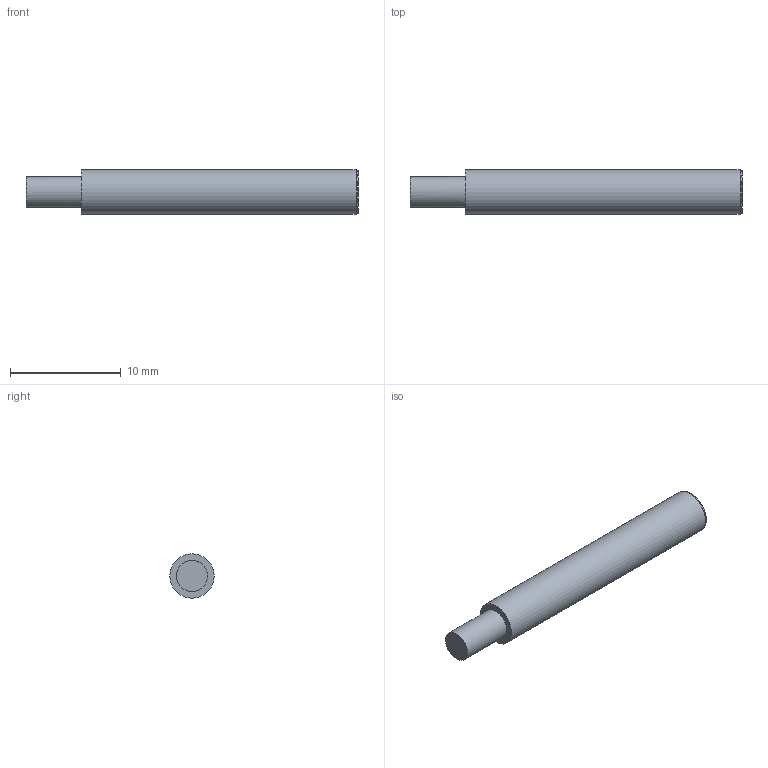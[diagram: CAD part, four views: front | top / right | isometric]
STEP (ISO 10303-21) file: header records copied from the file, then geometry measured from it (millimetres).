
FILE_DESCRIPTION( ( 'Unknown' ), '1' );
FILE_NAME( '//baumerholding.org/frauenfeld/bereich/BECH/Services/me_CAD/Solid Edge/Models/Dokumentationen/Induktiv/IxRx 04/Vereinfachte Modelle/Neutralformate/IFR 04_82_05.stp', 'Unknown', ( 'Unknown' ), ( 'Unknown' ), 'XStep 1.0', 'Unknown', ' ' );
FILE_SCHEMA( ( 'CONFIG_CONTROL_DESIGN' ) );
Length unit declared in the file: millimetre
Products named in the file (1): 140335
Bounding box: 29.98 x 4 x 4 mm (x, y, z)
Volume: 344.6 mm3; surface area: 382.7 mm2
Topology: 1 solids, 1 shells, 8 faces, 13 edges, 9 vertices
Faces by surface type: plane 4, cylinder 3, torus 1
Full cylindrical faces by diameter (mm): 2.8 x1, 3.9 x1, 4 x1
Entity records: 198 total; most frequent: DIRECTION 32, CARTESIAN_POINT 23, AXIS2_PLACEMENT_3D 16, EDGE_LOOP 14, ORIENTED_EDGE 14, FACE_OUTER_BOUND 12, ADVANCED_FACE 8, EDGE_CURVE 7
